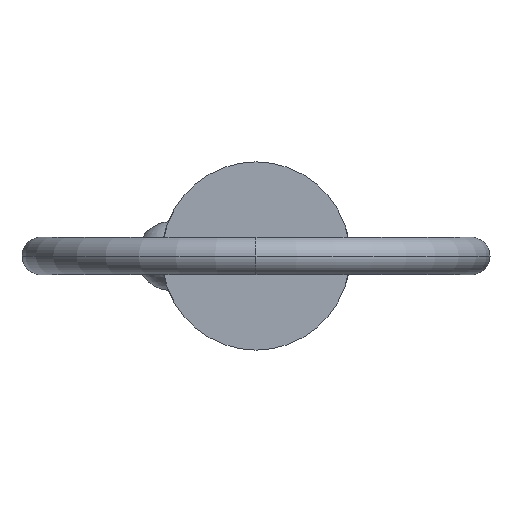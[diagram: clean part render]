
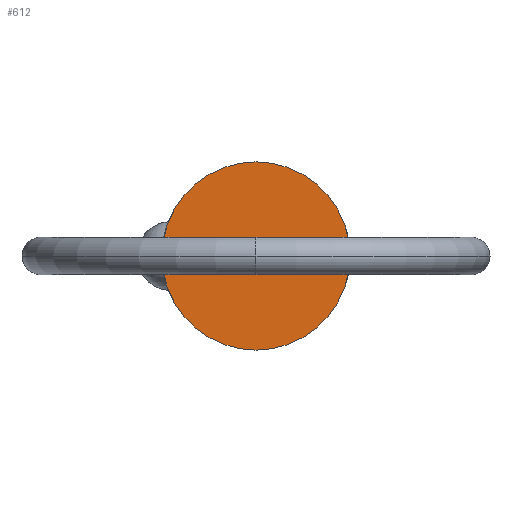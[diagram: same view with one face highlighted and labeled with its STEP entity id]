
A CAD part, left-side view. The second image highlights one B-rep face of the part: STEP entity #612.
In plain terms, the highlighted planar face has unit normal (-1, 0, 0).
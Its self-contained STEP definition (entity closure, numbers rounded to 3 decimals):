
#39 = VERTEX_POINT ( 'NONE', #470 ) ;
#61 = ORIENTED_EDGE ( 'NONE', *, *, #761, .F. ) ;
#70 = AXIS2_PLACEMENT_3D ( 'NONE', #240, #100, #506 ) ;
#100 = DIRECTION ( 'NONE',  ( 1., 0., 0. ) ) ;
#123 = CARTESIAN_POINT ( 'NONE',  ( 0., 0., -5.555 ) ) ;
#240 = CARTESIAN_POINT ( 'NONE',  ( 0., 0., 0. ) ) ;
#256 = AXIS2_PLACEMENT_3D ( 'NONE', #830, #555, #627 ) ;
#270 = VERTEX_POINT ( 'NONE', #123 ) ;
#305 = DIRECTION ( 'NONE',  ( 0., 0., -1. ) ) ;
#382 = CIRCLE ( 'NONE', #565, 5.555 ) ;
#470 = CARTESIAN_POINT ( 'NONE',  ( 0., 0., 5.555 ) ) ;
#506 = DIRECTION ( 'NONE',  ( 0., 0., -1. ) ) ;
#508 = CIRCLE ( 'NONE', #70, 5.555 ) ;
#555 = DIRECTION ( 'NONE',  ( -1., 0., 0. ) ) ;
#565 = AXIS2_PLACEMENT_3D ( 'NONE', #663, #597, #305 ) ;
#579 = EDGE_LOOP ( 'NONE', ( #687, #61 ) ) ;
#597 = DIRECTION ( 'NONE',  ( 1., 0., 0. ) ) ;
#612 = ADVANCED_FACE ( 'NONE', ( #692 ), #630, .T. ) ;
#627 = DIRECTION ( 'NONE',  ( 0., 0., 1. ) ) ;
#630 = PLANE ( 'NONE',  #256 ) ;
#663 = CARTESIAN_POINT ( 'NONE',  ( 0., 0., 0. ) ) ;
#687 = ORIENTED_EDGE ( 'NONE', *, *, #852, .F. ) ;
#692 = FACE_OUTER_BOUND ( 'NONE', #579, .T. ) ;
#761 = EDGE_CURVE ( 'NONE', #39, #270, #382, .T. ) ;
#830 = CARTESIAN_POINT ( 'NONE',  ( 0., 0., 0. ) ) ;
#852 = EDGE_CURVE ( 'NONE', #270, #39, #508, .T. ) ;
